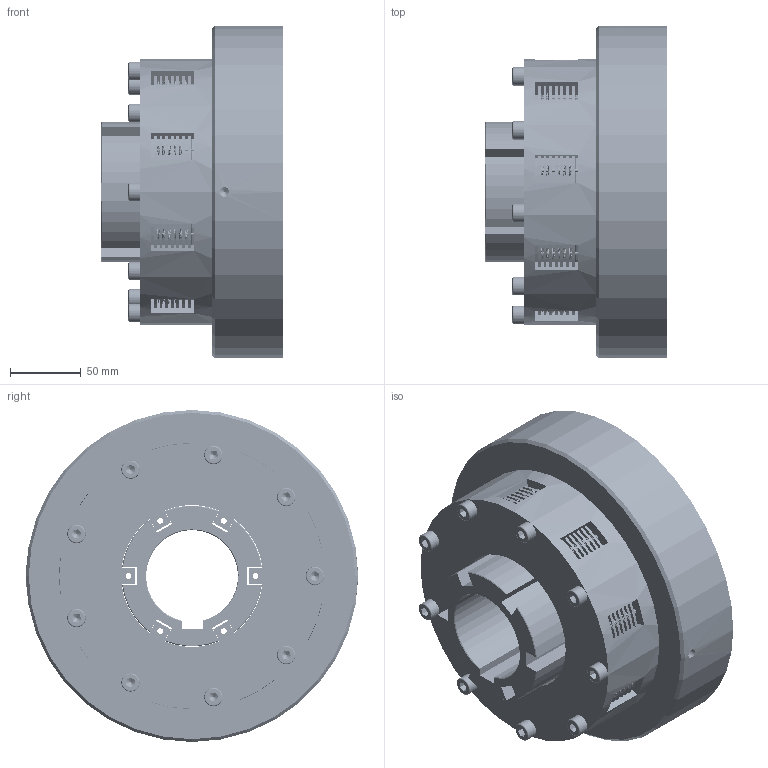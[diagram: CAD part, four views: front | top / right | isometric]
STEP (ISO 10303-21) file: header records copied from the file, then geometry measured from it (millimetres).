
FILE_DESCRIPTION(/* description */ (''),/* implementation_level */ '2;1');
FILE_NAME(/* name */ '\\Srv-tecnico\DATI\UFFICIO TECNICO\ARCHIVIO INVENTOR\DISEGNI\UFFICIO TECNICO\03_Friz_Oleodinamiche e Pneumatiche_Cilindro_Statico\03_40 FPL-N\03_40_008_01 FPL_N08\B\03_40_008_01 FPL-N008B@STEP.stp',/* time_stamp */ '2016-05-11T14:06:47+02:00',/* author */ ('stefano'),/* organization */ (''),/* preprocessor_version */ 'ST-DEVELOPER v16.1',/* originating_system */ 'Autodesk Inventor 2016',/* authorisation */ '');
FILE_SCHEMA (('AUTOMOTIVE_DESIGN { 1 0 10303 214 3 1 1 }'));
Products named in the file (1): 03_40_008_01 FPL-N008B V2013_Substitute_1
Bounding box: 129 x 235 x 235 mm (x, y, z)
Volume: 2726531.5 mm3; surface area: 439415.3 mm2
Topology: 9 solids, 9 shells, 1381 faces, 3655 edges, 2406 vertices
Faces by surface type: plane 630, cylinder 376, bspline 273, cone 84, torus 18
Full cylindrical faces by diameter (mm): 2 x9, 2.75 x63, 3.5 x9, 4 x36, 6.647 x13, 11.445 x1, 13 x9, 15.5 x18, 102 x1, 102.5 x7, 125 x1, 150 x2, 160.25 x6, 164 x1, 188 x1, 205 x2, 235 x1
Entity records: 85983 total; most frequent: CARTESIAN_POINT 51972, ORIENTED_EDGE 6638, DIRECTION 6508, EDGE_CURVE 3319, AXIS2_PLACEMENT_3D 2599, VERTEX_POINT 2322, EDGE_LOOP 1969, CIRCLE 1481
